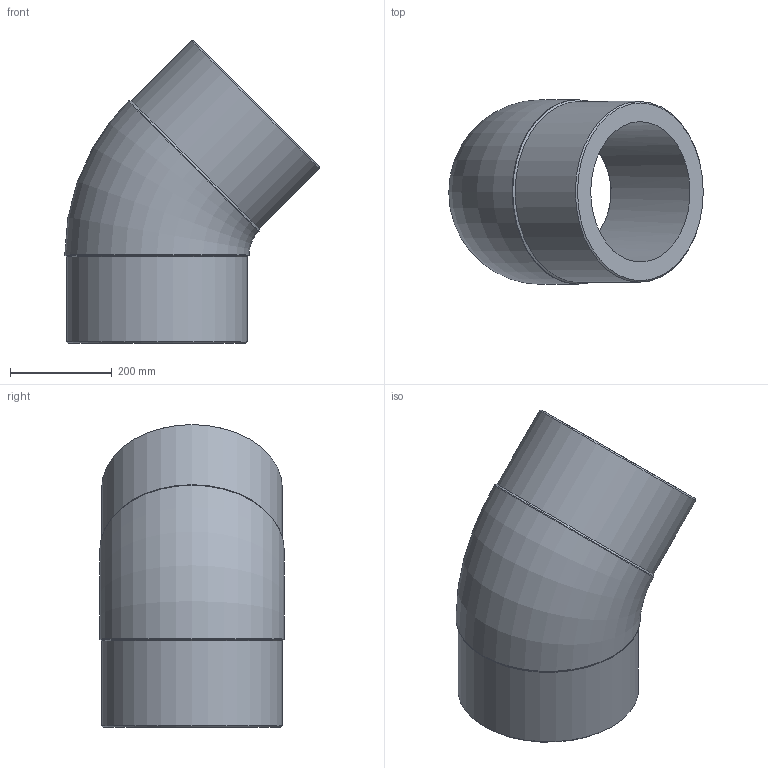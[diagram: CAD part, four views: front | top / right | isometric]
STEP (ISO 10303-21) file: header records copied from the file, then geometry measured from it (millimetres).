
FILE_DESCRIPTION(/* description */ ('Unknown'),/* implementation_level */ '2;1');
FILE_NAME(/* name */ 'G4P355G',/* time_stamp */ '2022-01-20T17:29:44+01:00',/* author */ ('Unknown'),/* organization */ ('Unknown'),/* preprocessor_version */ 'ST-DEVELOPER v18.1',/* originating_system */ 'Solid Edge',/* authorisation */ 'Unknown');
FILE_SCHEMA (('AUTOMOTIVE_DESIGN {1 0 10303 214 3 1 1}'));
Length unit declared in the file: millimetre
Products named in the file (1): G4P355G
Bounding box: 499.55 x 362 x 594.55 mm (x, y, z)
Volume: 22179613.9 mm3; surface area: 1155449.9 mm2
Topology: 1 solids, 1 shells, 14 faces, 34 edges, 22 vertices
Faces by surface type: cylinder 6, cone 4, plane 2, torus 2
Full cylindrical faces by diameter (mm): 275.6 x2, 355 x2, 362 x2
Entity records: 372 total; most frequent: CARTESIAN_POINT 72, DIRECTION 60, ORIENTED_EDGE 38, AXIS2_PLACEMENT_3D 30, EDGE_LOOP 27, FACE_BOUND 27, EDGE_CURVE 19, VERTEX_POINT 18
